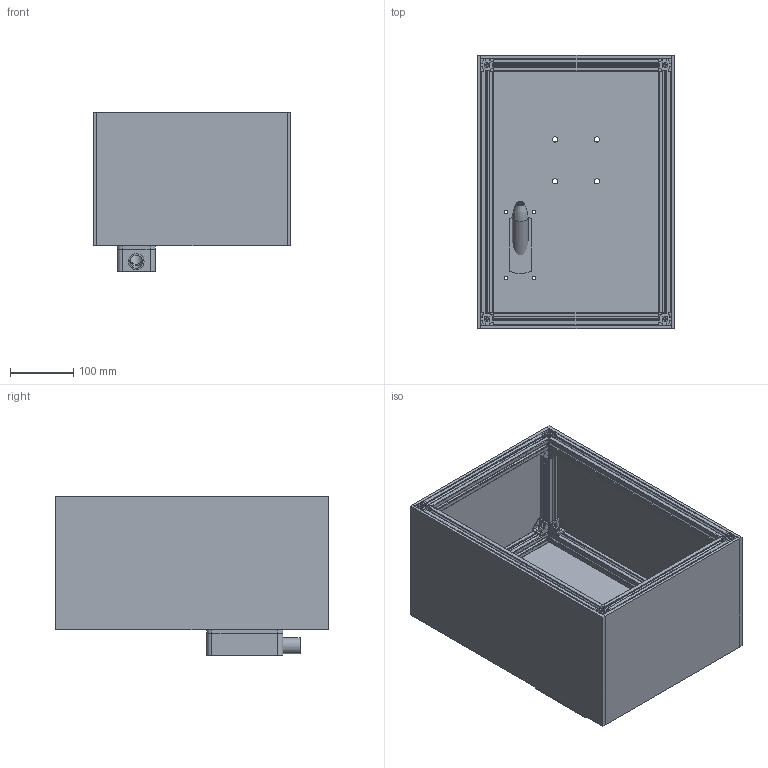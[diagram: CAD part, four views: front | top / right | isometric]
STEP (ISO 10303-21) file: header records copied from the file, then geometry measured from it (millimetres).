
FILE_DESCRIPTION(/* description */ (''),/* implementation_level */ '2;1');
FILE_NAME(/* name */ 'Assieme_turgo_frame.stp',/* time_stamp */ '2025-03-15T07:13:51+01:00',/* author */ ('R5800u'),/* organization */ (''),/* preprocessor_version */ 'ST-DEVELOPER v20',/* originating_system */ 'Autodesk Inventor 2025',/* authorisation */ '');
FILE_SCHEMA (('AUTOMOTIVE_DESIGN { 1 0 10303 214 3 1 1 }'));
Length unit declared in the file: millimetre
Products named in the file (13): Assieme_turgo_frame; Assieme2; SOLID; tslot-20x20-3; tslot-20x20-2; tslot-20x20-3_MIR1; SNSD20x20; SNSD20x20_MIR; tslot-20x20-2_MIR1; lastra1; lastra2; lastra3; tappo_superiore_distributore
Assembly tree (35 placements, depth 3):
  Assieme_turgo_frame
    Assieme2
      SOLID  x4
      tslot-20x20-3  x2
      tslot-20x20-2  x2
      tslot-20x20-3_MIR1  x2
      SNSD20x20  x8
      SNSD20x20_MIR  x8
      tslot-20x20-2_MIR1  x2
    lastra1
    lastra2  x2
    lastra3  x2
    tappo_superiore_distributore
Bounding box: 310 x 430 x 250 mm (x, y, z)
Volume: 3714999.7 mm3; surface area: 1596992.6 mm2
Topology: 38 solids, 38 shells, 2860 faces, 7856 edges, 5177 vertices
Faces by surface type: plane 2145, cylinder 709, torus 4, bspline 2
Full cylindrical faces by diameter (mm): 4.2 x12, 5.3 x4, 5.5 x8, 8.4 x4, 10 x4, 20 x6, 25 x3
Entity records: 22653 total; most frequent: CARTESIAN_POINT 3927, ORIENTED_EDGE 3778, DIRECTION 3708, EDGE_CURVE 1889, LINE 1532, VECTOR 1532, VERTEX_POINT 1251, AXIS2_PLACEMENT_3D 1088
